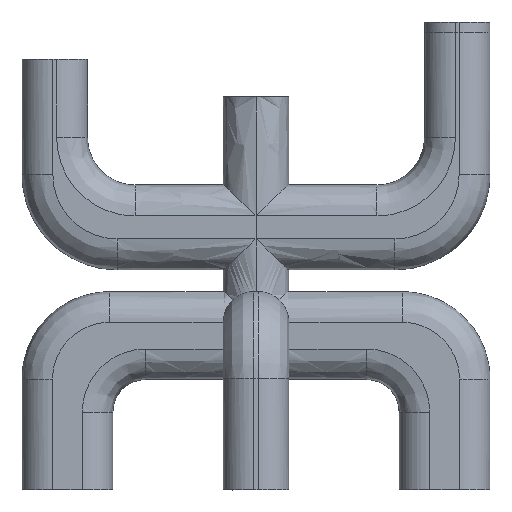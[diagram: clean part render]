
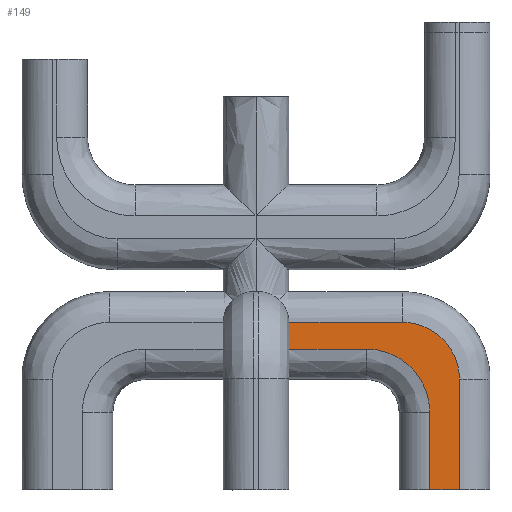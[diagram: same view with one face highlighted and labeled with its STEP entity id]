
A CAD part, front view. The second image highlights one B-rep face of the part: STEP entity #149.
In plain terms, the highlighted planar face has unit normal (0, -1, 0).
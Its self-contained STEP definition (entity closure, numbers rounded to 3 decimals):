
#149=ADVANCED_FACE('',(#285),#2038,.T.);
#285=FACE_OUTER_BOUND('',#427,.T.);
#427=EDGE_LOOP('',(#976,#977,#978,#979,#980,#981,#982,#983,#984));
#976=ORIENTED_EDGE('',*,*,#1353,.T.);
#977=ORIENTED_EDGE('',*,*,#1126,.F.);
#978=ORIENTED_EDGE('',*,*,#1151,.T.);
#979=ORIENTED_EDGE('',*,*,#1165,.F.);
#980=ORIENTED_EDGE('',*,*,#1159,.F.);
#981=ORIENTED_EDGE('',*,*,#1168,.T.);
#982=ORIENTED_EDGE('',*,*,#1146,.F.);
#983=ORIENTED_EDGE('',*,*,#1143,.T.);
#984=ORIENTED_EDGE('',*,*,#1352,.F.);
#1126=EDGE_CURVE('',#1745,#1879,#1611,.T.);
#1143=EDGE_CURVE('',#1747,#1878,#1430,.T.);
#1146=EDGE_CURVE('',#1747,#1744,#1433,.T.);
#1151=EDGE_CURVE('',#1745,#1746,#1438,.T.);
#1159=EDGE_CURVE('',#1764,#1765,#1625,.T.);
#1165=EDGE_CURVE('',#1765,#1746,#1627,.T.);
#1168=EDGE_CURVE('',#1764,#1744,#1446,.T.);
#1352=EDGE_CURVE('',#1877,#1878,#1701,.T.);
#1353=EDGE_CURVE('',#1877,#1879,#1559,.T.);
#1430=(
BOUNDED_CURVE()
B_SPLINE_CURVE(1,(#3645,#3646),.UNSPECIFIED.,.F.,.F.)
B_SPLINE_CURVE_WITH_KNOTS((2,2),(0.,52.143),
 .UNSPECIFIED.)
CURVE()
GEOMETRIC_REPRESENTATION_ITEM()
RATIONAL_B_SPLINE_CURVE((1.,1.))
REPRESENTATION_ITEM('')
);
#1433=(
BOUNDED_CURVE()
B_SPLINE_CURVE(3,(#3653,#3654,#3655,#3656,#3657,#3658,#3659,#3660,#3661,
#3662,#3663),.UNSPECIFIED.,.F.,.F.)
B_SPLINE_CURVE_WITH_KNOTS((4,1,1,1,1,1,1,1,4),(0.,4.9,9.801,
15.111,20.42,25.73,31.04,35.94,
40.84),.UNSPECIFIED.)
CURVE()
GEOMETRIC_REPRESENTATION_ITEM()
RATIONAL_B_SPLINE_CURVE((1.,1.,1.,1.,1.,1.,1.,1.,1.,1.,1.))
REPRESENTATION_ITEM('')
);
#1438=(
BOUNDED_CURVE()
B_SPLINE_CURVE(3,(#3684,#3685,#3686,#3687,#3688,#3689,#3690),
 .UNSPECIFIED.,.F.,.F.)
B_SPLINE_CURVE_WITH_KNOTS((4,1,1,1,4),(0.,11.834,22.776,
33.718,45.553),.UNSPECIFIED.)
CURVE()
GEOMETRIC_REPRESENTATION_ITEM()
RATIONAL_B_SPLINE_CURVE((1.,1.,1.,1.,1.,1.,1.))
REPRESENTATION_ITEM('')
);
#1446=(
BOUNDED_CURVE()
B_SPLINE_CURVE(1,(#3733,#3734),.UNSPECIFIED.,.F.,.F.)
B_SPLINE_CURVE_WITH_KNOTS((2,2),(15.296,66.09),
 .UNSPECIFIED.)
CURVE()
GEOMETRIC_REPRESENTATION_ITEM()
RATIONAL_B_SPLINE_CURVE((1.,1.))
REPRESENTATION_ITEM('')
);
#1559=(
BOUNDED_CURVE()
B_SPLINE_CURVE(2,(#4397,#4398,#4399),.UNSPECIFIED.,.F.,.F.)
B_SPLINE_CURVE_WITH_KNOTS((3,3),(0.,0.038),.UNSPECIFIED.)
CURVE()
GEOMETRIC_REPRESENTATION_ITEM()
RATIONAL_B_SPLINE_CURVE((1.,1.,1.))
REPRESENTATION_ITEM('')
);
#1611=B_SPLINE_CURVE_WITH_KNOTS('',1,(#3605,#3606),.UNSPECIFIED.,.F.,.F.,
(2,2),(0.,35.55),.UNSPECIFIED.);
#1625=B_SPLINE_CURVE_WITH_KNOTS('',1,(#3711,#3712),.UNSPECIFIED.,.F.,.F.,
(2,2),(11.838,23.332),.UNSPECIFIED.);
#1627=B_SPLINE_CURVE_WITH_KNOTS('',1,(#3727,#3728),.UNSPECIFIED.,.F.,.F.,
(2,2),(15.296,50.847),.UNSPECIFIED.);
#1701=B_SPLINE_CURVE_WITH_KNOTS('',1,(#4395,#4396),.UNSPECIFIED.,.F.,.F.,
(2,2),(79.847,92.056),.UNSPECIFIED.);
#1744=VERTEX_POINT('',#3306);
#1745=VERTEX_POINT('',#3307);
#1746=VERTEX_POINT('',#3308);
#1747=VERTEX_POINT('',#3309);
#1764=VERTEX_POINT('',#3326);
#1765=VERTEX_POINT('',#3327);
#1877=VERTEX_POINT('',#3439);
#1878=VERTEX_POINT('',#3440);
#1879=VERTEX_POINT('',#3441);
#2038=PLANE('',#2104);
#2104=AXIS2_PLACEMENT_3D('',#3160,#2153,$);
#2153=DIRECTION('',(0.,-1.,0.));
#3160=CARTESIAN_POINT('',(6414.998,-1414.003,13.168));
#3306=CARTESIAN_POINT('',(6398.391,-1414.003,90.273));
#3307=CARTESIAN_POINT('',(6348.699,-1414.003,106.324));
#3308=CARTESIAN_POINT('',(6382.533,-1414.003,72.49));
#3309=CARTESIAN_POINT('',(6368.058,-1414.003,120.607));
#3326=CARTESIAN_POINT('',(6398.391,-1414.003,31.013));
#3327=CARTESIAN_POINT('',(6382.533,-1414.003,31.013));
#3439=CARTESIAN_POINT('',(6307.224,-1414.003,106.364));
#3440=CARTESIAN_POINT('',(6307.224,-1414.003,120.607));
#3441=CARTESIAN_POINT('',(6307.224,-1414.003,106.324));
#3605=CARTESIAN_POINT('',(6348.699,-1414.003,106.324));
#3606=CARTESIAN_POINT('',(6307.224,-1414.003,106.324));
#3645=CARTESIAN_POINT('',(6368.058,-1414.003,120.607));
#3646=CARTESIAN_POINT('',(6307.224,-1414.003,120.607));
#3653=CARTESIAN_POINT('',(6368.058,-1414.003,120.607));
#3654=CARTESIAN_POINT('',(6369.963,-1414.003,120.607));
#3655=CARTESIAN_POINT('',(6373.775,-1414.003,120.246));
#3656=CARTESIAN_POINT('',(6379.443,-1414.003,118.6));
#3657=CARTESIAN_POINT('',(6384.827,-1414.003,115.803));
#3658=CARTESIAN_POINT('',(6389.656,-1414.003,111.872));
#3659=CARTESIAN_POINT('',(6393.588,-1414.003,107.043));
#3660=CARTESIAN_POINT('',(6396.384,-1414.003,101.659));
#3661=CARTESIAN_POINT('',(6398.031,-1414.003,95.99));
#3662=CARTESIAN_POINT('',(6398.391,-1414.003,92.179));
#3663=CARTESIAN_POINT('',(6398.391,-1414.003,90.273));
#3684=CARTESIAN_POINT('',(6348.699,-1414.003,106.324));
#3685=CARTESIAN_POINT('',(6353.302,-1414.003,106.328));
#3686=CARTESIAN_POINT('',(6362.156,-1414.003,104.49));
#3687=CARTESIAN_POINT('',(6373.199,-1414.003,96.99));
#3688=CARTESIAN_POINT('',(6380.699,-1414.003,85.947));
#3689=CARTESIAN_POINT('',(6382.537,-1414.003,77.093));
#3690=CARTESIAN_POINT('',(6382.533,-1414.003,72.49));
#3711=CARTESIAN_POINT('',(6398.391,-1414.003,31.013));
#3712=CARTESIAN_POINT('',(6382.533,-1414.003,31.013));
#3727=CARTESIAN_POINT('',(6382.533,-1414.003,31.013));
#3728=CARTESIAN_POINT('',(6382.533,-1414.003,72.49));
#3733=CARTESIAN_POINT('',(6398.391,-1414.003,31.013));
#3734=CARTESIAN_POINT('',(6398.391,-1414.003,90.273));
#4395=CARTESIAN_POINT('',(6307.224,-1414.003,106.364));
#4396=CARTESIAN_POINT('',(6307.224,-1414.003,120.607));
#4397=CARTESIAN_POINT('',(6307.224,-1414.003,106.364));
#4398=CARTESIAN_POINT('',(6307.224,-1414.003,106.344));
#4399=CARTESIAN_POINT('',(6307.224,-1414.003,106.324));
